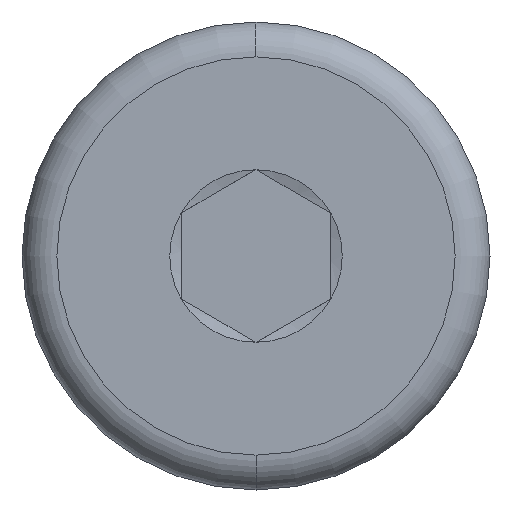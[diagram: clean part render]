
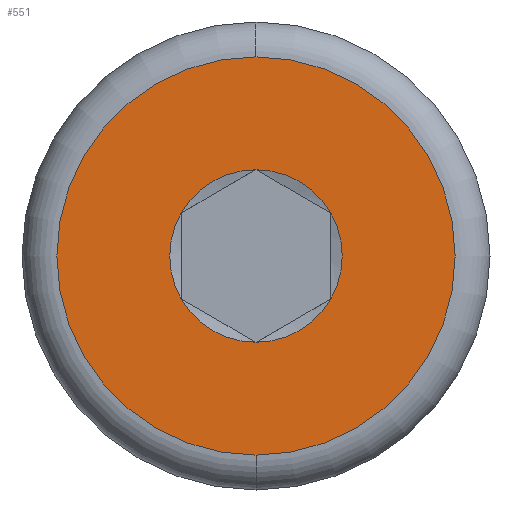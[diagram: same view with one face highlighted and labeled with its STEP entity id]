
A CAD part, left-side view. The second image highlights one B-rep face of the part: STEP entity #551.
In plain terms, the highlighted planar face has unit normal (-1, 0, 0).
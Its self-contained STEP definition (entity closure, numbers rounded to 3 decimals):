
#8 = CARTESIAN_POINT ( 'NONE',  ( 0., 1.5, 0.866 ) ) ;
#21 = EDGE_CURVE ( 'NONE', #599, #152, #52, .T. ) ;
#29 = AXIS2_PLACEMENT_3D ( 'NONE', #277, #537, #131 ) ;
#36 = CARTESIAN_POINT ( 'NONE',  ( 0., 0., 0. ) ) ;
#52 = CIRCLE ( 'NONE', #349, 1.732 ) ;
#74 = AXIS2_PLACEMENT_3D ( 'NONE', #343, #80, #286 ) ;
#80 = DIRECTION ( 'NONE',  ( 1., 0., 0. ) ) ;
#85 = AXIS2_PLACEMENT_3D ( 'NONE', #210, #511, #358 ) ;
#86 = CARTESIAN_POINT ( 'NONE',  ( 0., 0., 0. ) ) ;
#90 = CARTESIAN_POINT ( 'NONE',  ( 0., 0., 0. ) ) ;
#102 = AXIS2_PLACEMENT_3D ( 'NONE', #36, #247, #206 ) ;
#109 = CIRCLE ( 'NONE', #610, 1.732 ) ;
#110 = VERTEX_POINT ( 'NONE', #442 ) ;
#113 = CIRCLE ( 'NONE', #29, 4. ) ;
#116 = CARTESIAN_POINT ( 'NONE',  ( 0., 0., 4. ) ) ;
#118 = EDGE_LOOP ( 'NONE', ( #611, #409, #428, #155, #568, #332 ) ) ;
#121 = EDGE_CURVE ( 'NONE', #641, #412, #195, .T. ) ;
#130 = EDGE_CURVE ( 'NONE', #162, #110, #290, .T. ) ;
#131 = DIRECTION ( 'NONE',  ( 0., 0., -1. ) ) ;
#149 = EDGE_CURVE ( 'NONE', #514, #382, #109, .T. ) ;
#152 = VERTEX_POINT ( 'NONE', #657 ) ;
#155 = ORIENTED_EDGE ( 'NONE', *, *, #21, .T. ) ;
#156 = CARTESIAN_POINT ( 'NONE',  ( 0., 0., 0. ) ) ;
#162 = VERTEX_POINT ( 'NONE', #202 ) ;
#169 = CARTESIAN_POINT ( 'NONE',  ( 0., 0., 0. ) ) ;
#170 = EDGE_CURVE ( 'NONE', #110, #599, #569, .T. ) ;
#186 = AXIS2_PLACEMENT_3D ( 'NONE', #156, #307, #467 ) ;
#195 = CIRCLE ( 'NONE', #74, 4. ) ;
#202 = CARTESIAN_POINT ( 'NONE',  ( 0., 0., 1.732 ) ) ;
#206 = DIRECTION ( 'NONE',  ( 0., 0., -1. ) ) ;
#210 = CARTESIAN_POINT ( 'NONE',  ( 0., 0., 0. ) ) ;
#213 = CARTESIAN_POINT ( 'NONE',  ( 0., 0., 0. ) ) ;
#223 = ORIENTED_EDGE ( 'NONE', *, *, #646, .F. ) ;
#233 = DIRECTION ( 'NONE',  ( 1., 0., 0. ) ) ;
#241 = DIRECTION ( 'NONE',  ( 0., 0., -1. ) ) ;
#244 = DIRECTION ( 'NONE',  ( 1., 0., 0. ) ) ;
#245 = EDGE_CURVE ( 'NONE', #382, #162, #598, .T. ) ;
#247 = DIRECTION ( 'NONE',  ( 1., 0., 0. ) ) ;
#277 = CARTESIAN_POINT ( 'NONE',  ( 0., 0., 0. ) ) ;
#286 = DIRECTION ( 'NONE',  ( 0., 0., -1. ) ) ;
#290 = CIRCLE ( 'NONE', #504, 1.732 ) ;
#291 = DIRECTION ( 'NONE',  ( 1., 0., 0. ) ) ;
#307 = DIRECTION ( 'NONE',  ( 1., 0., 0. ) ) ;
#311 = CARTESIAN_POINT ( 'NONE',  ( 0., 1.5, -0.866 ) ) ;
#332 = ORIENTED_EDGE ( 'NONE', *, *, #149, .T. ) ;
#343 = CARTESIAN_POINT ( 'NONE',  ( 0., 0., 0. ) ) ;
#349 = AXIS2_PLACEMENT_3D ( 'NONE', #169, #233, #623 ) ;
#358 = DIRECTION ( 'NONE',  ( 0., 0., -1. ) ) ;
#365 = DIRECTION ( 'NONE',  ( -1., 0., 0. ) ) ;
#382 = VERTEX_POINT ( 'NONE', #8 ) ;
#409 = ORIENTED_EDGE ( 'NONE', *, *, #130, .T. ) ;
#412 = VERTEX_POINT ( 'NONE', #436 ) ;
#419 = AXIS2_PLACEMENT_3D ( 'NONE', #213, #365, #669 ) ;
#428 = ORIENTED_EDGE ( 'NONE', *, *, #170, .T. ) ;
#436 = CARTESIAN_POINT ( 'NONE',  ( 0., 0., -4. ) ) ;
#442 = CARTESIAN_POINT ( 'NONE',  ( 0., -1.5, 0.866 ) ) ;
#454 = DIRECTION ( 'NONE',  ( 0., 0., -1. ) ) ;
#463 = FACE_OUTER_BOUND ( 'NONE', #485, .T. ) ;
#467 = DIRECTION ( 'NONE',  ( 0., 0., -1. ) ) ;
#471 = PLANE ( 'NONE',  #419 ) ;
#485 = EDGE_LOOP ( 'NONE', ( #223, #561 ) ) ;
#504 = AXIS2_PLACEMENT_3D ( 'NONE', #90, #291, #241 ) ;
#511 = DIRECTION ( 'NONE',  ( 1., 0., 0. ) ) ;
#514 = VERTEX_POINT ( 'NONE', #311 ) ;
#537 = DIRECTION ( 'NONE',  ( 1., 0., 0. ) ) ;
#551 = ADVANCED_FACE ( 'NONE', ( #608, #463 ), #471, .T. ) ;
#561 = ORIENTED_EDGE ( 'NONE', *, *, #121, .F. ) ;
#568 = ORIENTED_EDGE ( 'NONE', *, *, #596, .T. ) ;
#569 = CIRCLE ( 'NONE', #85, 1.732 ) ;
#596 = EDGE_CURVE ( 'NONE', #152, #514, #651, .T. ) ;
#598 = CIRCLE ( 'NONE', #102, 1.732 ) ;
#599 = VERTEX_POINT ( 'NONE', #672 ) ;
#608 = FACE_BOUND ( 'NONE', #118, .T. ) ;
#610 = AXIS2_PLACEMENT_3D ( 'NONE', #86, #244, #454 ) ;
#611 = ORIENTED_EDGE ( 'NONE', *, *, #245, .T. ) ;
#623 = DIRECTION ( 'NONE',  ( 0., 0., -1. ) ) ;
#641 = VERTEX_POINT ( 'NONE', #116 ) ;
#646 = EDGE_CURVE ( 'NONE', #412, #641, #113, .T. ) ;
#651 = CIRCLE ( 'NONE', #186, 1.732 ) ;
#657 = CARTESIAN_POINT ( 'NONE',  ( 0., 0., -1.732 ) ) ;
#669 = DIRECTION ( 'NONE',  ( 0., 0., 1. ) ) ;
#672 = CARTESIAN_POINT ( 'NONE',  ( 0., -1.5, -0.866 ) ) ;
